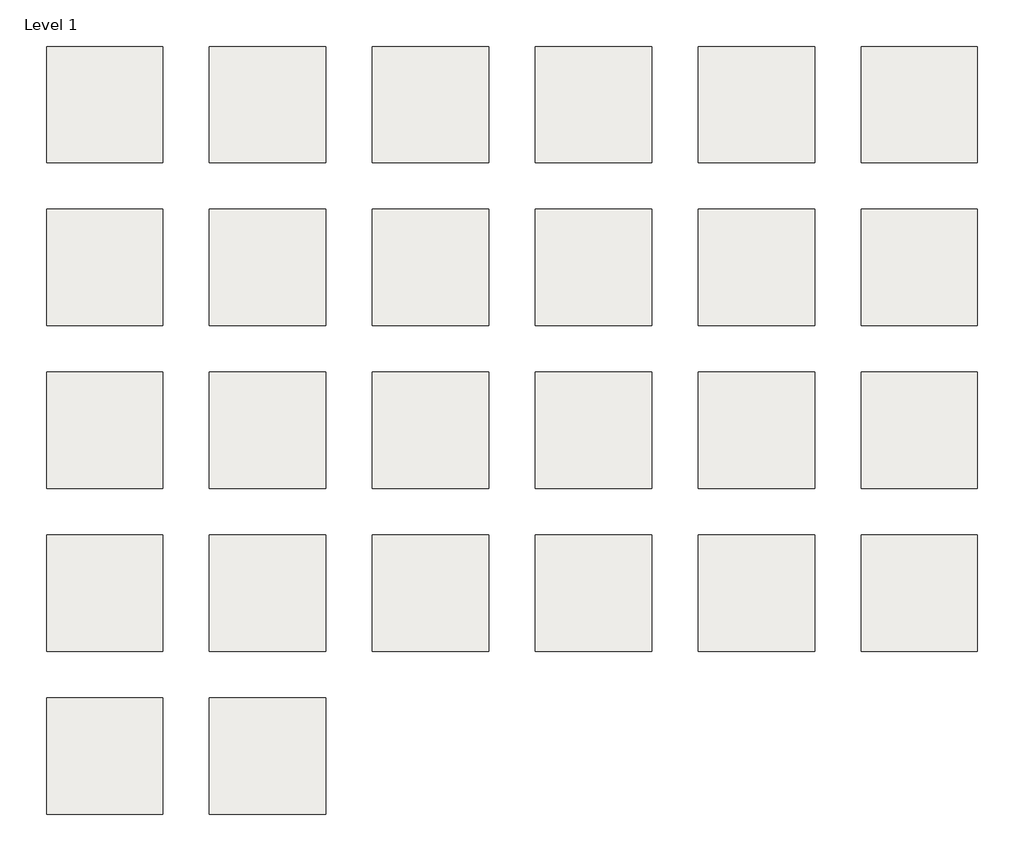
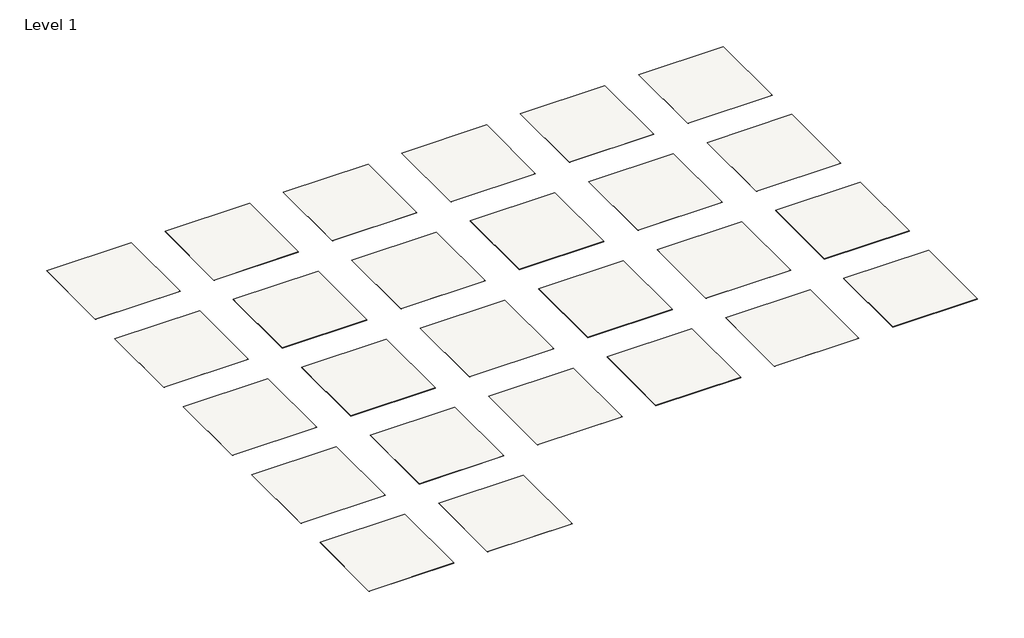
# One storey: 26 slabs.
"""IFC4 building model written with IfcOpenShell, lengths in millimetres."""

from ifc_helpers import new_model, si_unit, frame, origin, place, context, project, spatial, polyline, outline, extrude, element, save

model = new_model("IFC4")

# Units and contexts
model_context = context("Model", 3, world=origin())
ifc_project = project(units=[si_unit("LENGTHUNIT", "METRE", prefix="MILLI")], contexts=[model_context])

# Site, building, storey
site = spatial("IfcSite", under=ifc_project)
building = spatial("IfcBuilding", under=site)
storey = spatial("IfcBuildingStorey", under=building, Name="Level 1", Elevation=0.0)

# Slabs
placement = place(None, origin())
element("IfcSlab", 1, ObjectType="Armstrong Flooring_Theorem_ST920_Horn Silver", at=placement, inside=storey, context=model_context, shape_type="SweptSolid", body=[
    extrude(outline(polyline([(1219.2, 6400.8), (1219.2, 4876.8), (-304.8, 4876.8), (-304.8, 6400.8), (1219.2, 6400.8)])), frame((0.0, 0.0, -3.175), z_axis=(0.0, 0.0, 1.0), x_axis=(1.0, 0.0, 0.0)), (0.0, 0.0, 1.0), 3.175),
])
element("IfcSlab", 2, ObjectType="Armstrong Flooring_Theorem_ST921_Quicksilver", at=placement, inside=storey, context=model_context, shape_type="SweptSolid", body=[
    extrude(outline(polyline([(3352.8, 6400.8), (3352.8, 4876.8), (1828.8, 4876.8), (1828.8, 6400.8), (3352.8, 6400.8)])), frame((0.0, 0.0, -3.175), z_axis=(0.0, 0.0, 1.0), x_axis=(1.0, 0.0, 0.0)), (0.0, 0.0, 1.0), 3.175),
])
element("IfcSlab", 3, ObjectType="Armstrong Flooring_Theorem_ST923_Blende", at=placement, inside=storey, context=model_context, shape_type="SweptSolid", body=[
    extrude(outline(polyline([(5486.4, 6400.8), (5486.4, 4876.8), (3962.4, 4876.8), (3962.4, 6400.8), (5486.4, 6400.8)])), frame((0.0, 0.0, -3.175), z_axis=(0.0, 0.0, 1.0), x_axis=(1.0, 0.0, 0.0)), (0.0, 0.0, 1.0), 3.175),
])
element("IfcSlab", 4, ObjectType="Armstrong Flooring_Theorem_ST924_Pyrite", at=placement, inside=storey, context=model_context, shape_type="SweptSolid", body=[
    extrude(outline(polyline([(7620.0, 6400.8), (7620.0, 4876.8), (6096.0, 4876.8), (6096.0, 6400.8), (7620.0, 6400.8)])), frame((0.0, 0.0, -3.175), z_axis=(0.0, 0.0, 1.0), x_axis=(1.0, 0.0, 0.0)), (0.0, 0.0, 1.0), 3.175),
])
element("IfcSlab", 5, ObjectType="Armstrong Flooring_Theorem_ST925_Salt of Saturn", at=placement, inside=storey, context=model_context, shape_type="SweptSolid", body=[
    extrude(outline(polyline([(9753.6, 6400.8), (9753.6, 4876.8), (8229.6, 4876.8), (8229.6, 6400.8), (9753.6, 6400.8)])), frame((0.0, 0.0, -3.175), z_axis=(0.0, 0.0, 1.0), x_axis=(1.0, 0.0, 0.0)), (0.0, 0.0, 1.0), 3.175),
])
element("IfcSlab", 6, ObjectType="Armstrong Flooring_Theorem_ST915_Mosaic Gold", at=placement, inside=storey, context=model_context, shape_type="SweptSolid", body=[
    extrude(outline(polyline([(11887.2, 6400.8), (11887.2, 4876.8), (10363.2, 4876.8), (10363.2, 6400.8), (11887.2, 6400.8)])), frame((0.0, 0.0, -3.175), z_axis=(0.0, 0.0, 1.0), x_axis=(1.0, 0.0, 0.0)), (0.0, 0.0, 1.0), 3.175),
])
element("IfcSlab", 7, ObjectType="Armstrong Flooring_Theorem_ST916_Vermilion", at=placement, inside=storey, context=model_context, shape_type="SweptSolid", body=[
    extrude(outline(polyline([(1219.2, 4267.2), (1219.2, 2743.2), (-304.8, 2743.2), (-304.8, 4267.2), (1219.2, 4267.2)])), frame((0.0, 0.0, -3.175), z_axis=(0.0, 0.0, 1.0), x_axis=(1.0, 0.0, 0.0)), (0.0, 0.0, 1.0), 3.175),
])
element("IfcSlab", 8, ObjectType="Armstrong Flooring_Theorem_ST917_Cuprite", at=placement, inside=storey, context=model_context, shape_type="SweptSolid", body=[
    extrude(outline(polyline([(3352.8, 4267.2), (3352.8, 2743.2), (1828.8, 2743.2), (1828.8, 4267.2), (3352.8, 4267.2)])), frame((0.0, 0.0, -3.175), z_axis=(0.0, 0.0, 1.0), x_axis=(1.0, 0.0, 0.0)), (0.0, 0.0, 1.0), 3.175),
])
element("IfcSlab", 9, ObjectType="Armstrong Flooring_Theorem_ST918_Zaffre", at=placement, inside=storey, context=model_context, shape_type="SweptSolid", body=[
    extrude(outline(polyline([(5486.4, 4267.2), (5486.4, 2743.2), (3962.4, 2743.2), (3962.4, 4267.2), (5486.4, 4267.2)])), frame((0.0, 0.0, -3.175), z_axis=(0.0, 0.0, 1.0), x_axis=(1.0, 0.0, 0.0)), (0.0, 0.0, 1.0), 3.175),
])
element("IfcSlab", 10, ObjectType="Armstrong Flooring_Theorem_ST919_Fluorite", at=placement, inside=storey, context=model_context, shape_type="SweptSolid", body=[
    extrude(outline(polyline([(7620.0, 4267.2), (7620.0, 2743.2), (6096.0, 2743.2), (6096.0, 4267.2), (7620.0, 4267.2)])), frame((0.0, 0.0, -3.175), z_axis=(0.0, 0.0, 1.0), x_axis=(1.0, 0.0, 0.0)), (0.0, 0.0, 1.0), 3.175),
])
element("IfcSlab", 11, ObjectType="Armstrong Flooring_Theorem_ST940_Dolomite", at=placement, inside=storey, context=model_context, shape_type="SweptSolid", body=[
    extrude(outline(polyline([(9753.6, 4267.2), (9753.6, 2743.2), (8229.6, 2743.2), (8229.6, 4267.2), (9753.6, 4267.2)])), frame((0.0, 0.0, -3.175), z_axis=(0.0, 0.0, 1.0), x_axis=(1.0, 0.0, 0.0)), (0.0, 0.0, 1.0), 3.175),
])
element("IfcSlab", 12, ObjectType="Armstrong Flooring_Theorem_ST941_Verdigris", at=placement, inside=storey, context=model_context, shape_type="SweptSolid", body=[
    extrude(outline(polyline([(11887.2, 4267.2), (11887.2, 2743.2), (10363.2, 2743.2), (10363.2, 4267.2), (11887.2, 4267.2)])), frame((0.0, 0.0, -3.175), z_axis=(0.0, 0.0, 1.0), x_axis=(1.0, 0.0, 0.0)), (0.0, 0.0, 1.0), 3.175),
])
element("IfcSlab", 13, ObjectType="Armstrong Flooring_Theorem_ST942_Salmiac", at=placement, inside=storey, context=model_context, shape_type="SweptSolid", body=[
    extrude(outline(polyline([(1219.2, 2133.6), (1219.2, 609.6), (-304.8, 609.6), (-304.8, 2133.6), (1219.2, 2133.6)])), frame((0.0, 0.0, -3.175), z_axis=(0.0, 0.0, 1.0), x_axis=(1.0, 0.0, 0.0)), (0.0, 0.0, 1.0), 3.175),
])
element("IfcSlab", 14, ObjectType="Armstrong Flooring_Theorem_ST946_Cassius Purple", at=placement, inside=storey, context=model_context, shape_type="SweptSolid", body=[
    extrude(outline(polyline([(3352.8, 2133.6), (3352.8, 609.6), (1828.8, 609.6), (1828.8, 2133.6), (3352.8, 2133.6)])), frame((0.0, 0.0, -3.175), z_axis=(0.0, 0.0, 1.0), x_axis=(1.0, 0.0, 0.0)), (0.0, 0.0, 1.0), 3.175),
])
element("IfcSlab", 15, ObjectType="Armstrong Flooring_Theorem_ST947_Bluestone", at=placement, inside=storey, context=model_context, shape_type="SweptSolid", body=[
    extrude(outline(polyline([(5486.4, 2133.6), (5486.4, 609.6), (3962.4, 609.6), (3962.4, 2133.6), (5486.4, 2133.6)])), frame((0.0, 0.0, -3.175), z_axis=(0.0, 0.0, 1.0), x_axis=(1.0, 0.0, 0.0)), (0.0, 0.0, 1.0), 3.175),
])
element("IfcSlab", 16, ObjectType="Armstrong Flooring_Theorem_ST949_Marcasite", at=placement, inside=storey, context=model_context, shape_type="SweptSolid", body=[
    extrude(outline(polyline([(7620.0, 2133.6), (7620.0, 609.6), (6096.0, 609.6), (6096.0, 2133.6), (7620.0, 2133.6)])), frame((0.0, 0.0, -3.175), z_axis=(0.0, 0.0, 1.0), x_axis=(1.0, 0.0, 0.0)), (0.0, 0.0, 1.0), 3.175),
])
element("IfcSlab", 17, ObjectType="Armstrong Flooring_Theorem_ST950_Azurite", at=placement, inside=storey, context=model_context, shape_type="SweptSolid", body=[
    extrude(outline(polyline([(9753.6, 2133.6), (9753.6, 609.6), (8229.6, 609.6), (8229.6, 2133.6), (9753.6, 2133.6)])), frame((0.0, 0.0, -3.175), z_axis=(0.0, 0.0, 1.0), x_axis=(1.0, 0.0, 0.0)), (0.0, 0.0, 1.0), 3.175),
])
element("IfcSlab", 18, ObjectType="Armstrong Flooring_Theorem_ST951_Galena", at=placement, inside=storey, context=model_context, shape_type="SweptSolid", body=[
    extrude(outline(polyline([(11887.2, 2133.6), (11887.2, 609.6), (10363.2, 609.6), (10363.2, 2133.6), (11887.2, 2133.6)])), frame((0.0, 0.0, -3.175), z_axis=(0.0, 0.0, 1.0), x_axis=(1.0, 0.0, 0.0)), (0.0, 0.0, 1.0), 3.175),
])
element("IfcSlab", 19, ObjectType="Armstrong Flooring_Theorem_ST982_deGrasse", at=placement, inside=storey, context=model_context, shape_type="SweptSolid", body=[
    extrude(outline(polyline([(1219.2, 0.0), (1219.2, -1524.0), (-304.8, -1524.0), (-304.8, 0.0), (1219.2, 0.0)])), frame((0.0, 0.0, -3.175), z_axis=(0.0, 0.0, 1.0), x_axis=(1.0, 0.0, 0.0)), (0.0, 0.0, 1.0), 3.175),
])
element("IfcSlab", 20, ObjectType="Armstrong Flooring_Theorem_ST983_Pythagorean", at=placement, inside=storey, context=model_context, shape_type="SweptSolid", body=[
    extrude(outline(polyline([(3352.8, 0.0), (3352.8, -1524.0), (1828.8, -1524.0), (1828.8, 0.0), (3352.8, 0.0)])), frame((0.0, 0.0, -3.175), z_axis=(0.0, 0.0, 1.0), x_axis=(1.0, 0.0, 0.0)), (0.0, 0.0, 1.0), 3.175),
])
element("IfcSlab", 21, ObjectType="Armstrong Flooring_Theorem_ST984_Newton", at=placement, inside=storey, context=model_context, shape_type="SweptSolid", body=[
    extrude(outline(polyline([(5486.4, 0.0), (5486.4, -1524.0), (3962.4, -1524.0), (3962.4, 0.0), (5486.4, 0.0)])), frame((0.0, 0.0, -3.175), z_axis=(0.0, 0.0, 1.0), x_axis=(1.0, 0.0, 0.0)), (0.0, 0.0, 1.0), 3.175),
])
element("IfcSlab", 22, ObjectType="Armstrong Flooring_Theorem_ST985_Einstein", at=placement, inside=storey, context=model_context, shape_type="SweptSolid", body=[
    extrude(outline(polyline([(7620.0, 0.0), (7620.0, -1524.0), (6096.0, -1524.0), (6096.0, 0.0), (7620.0, 0.0)])), frame((0.0, 0.0, -3.175), z_axis=(0.0, 0.0, 1.0), x_axis=(1.0, 0.0, 0.0)), (0.0, 0.0, 1.0), 3.175),
])
element("IfcSlab", 23, ObjectType="Armstrong Flooring_Theorem_ST992_deGrasse Green", at=placement, inside=storey, context=model_context, shape_type="SweptSolid", body=[
    extrude(outline(polyline([(9753.6, 0.0), (9753.6, -1524.0), (8229.6, -1524.0), (8229.6, 0.0), (9753.6, 0.0)])), frame((0.0, 0.0, -3.175), z_axis=(0.0, 0.0, 1.0), x_axis=(1.0, 0.0, 0.0)), (0.0, 0.0, 1.0), 3.175),
])
element("IfcSlab", 24, ObjectType="Armstrong Flooring_Theorem_ST993_Pythagorean Ash", at=placement, inside=storey, context=model_context, shape_type="SweptSolid", body=[
    extrude(outline(polyline([(11887.2, 0.0), (11887.2, -1524.0), (10363.2, -1524.0), (10363.2, 0.0), (11887.2, 0.0)])), frame((0.0, 0.0, -3.175), z_axis=(0.0, 0.0, 1.0), x_axis=(1.0, 0.0, 0.0)), (0.0, 0.0, 1.0), 3.175),
])
element("IfcSlab", 25, ObjectType="Armstrong Flooring_Theorem_ST994_Newton Gray", at=placement, inside=storey, context=model_context, shape_type="SweptSolid", body=[
    extrude(outline(polyline([(1219.2, -2133.6), (1219.2, -3657.6), (-304.8, -3657.6), (-304.8, -2133.6), (1219.2, -2133.6)])), frame((0.0, 0.0, -3.175), z_axis=(0.0, 0.0, 1.0), x_axis=(1.0, 0.0, 0.0)), (0.0, 0.0, 1.0), 3.175),
])
element("IfcSlab", 26, ObjectType="Armstrong Flooring_Theorem_ST995_Einstein Blue", at=placement, inside=storey, context=model_context, shape_type="SweptSolid", body=[
    extrude(outline(polyline([(3352.8, -2133.6), (3352.8, -3657.6), (1828.8, -3657.6), (1828.8, -2133.6), (3352.8, -2133.6)])), frame((0.0, 0.0, -3.175), z_axis=(0.0, 0.0, 1.0), x_axis=(1.0, 0.0, 0.0)), (0.0, 0.0, 1.0), 3.175),
])

save(model, "model.ifc")
